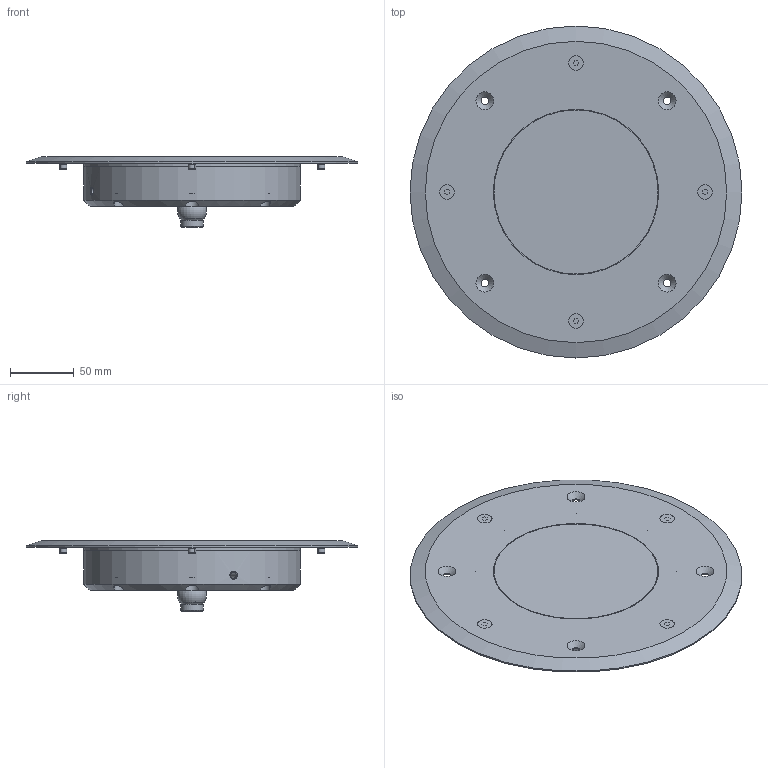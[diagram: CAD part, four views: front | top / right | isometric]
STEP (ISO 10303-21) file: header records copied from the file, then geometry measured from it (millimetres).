
FILE_DESCRIPTION(/* description */ ('Alibre Inc.'),/* implementation_level */ '2;1');
FILE_NAME(/* name */ 'export-1736BC29-082E-4A99-9A09-3830F0377B67',/* time_stamp */ '2025-04-08T19:00:20+02:00',/* author */ (''),/* organization */ (''),/* preprocessor_version */ 'ST-DEVELOPER v17',/* originating_system */ 'Alibre',/* authorisation */ '');
FILE_SCHEMA (('CONFIG_CONTROL_DESIGN'));
Length unit declared in the file: millimetre
Products named in the file (8): ID_1
Bounding box: 260 x 260 x 55.33 mm (x, y, z)
Volume: 780802.9 mm3; surface area: 218512.5 mm2
Topology: 9 solids, 9 shells, 408 faces, 1011 edges, 665 vertices
Faces by surface type: plane 204, cylinder 120, cone 53, torus 17, bspline 14
Full cylindrical faces by diameter (mm): 1.351 x1, 1.796 x1, 2.1 x12, 2.731 x1, 4.917 x8, 5 x2, 6 x4, 6.2 x8, 8.5 x1, 8.759 x1, 10.5 x8, 10.959 x1, 11.046 x1, 12 x1, 12.059 x2, 12.796 x1, 14 x1, 16.459 x1, 17 x1, 18 x1, 18.059 x1, 20 x1, 30 x4, 128.5 x1, 129.5 x1, 136 x1, 138.2 x1, 140 x1, 147 x1, 150 x2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
Entity records: 10394 total; most frequent: CARTESIAN_POINT 2471, ORIENTED_EDGE 1326, DIRECTION 1298, EDGE_CURVE 663, AXIS2_PLACEMENT_3D 561, FACE_BOUND 530, EDGE_LOOP 520, VERTEX_POINT 501
